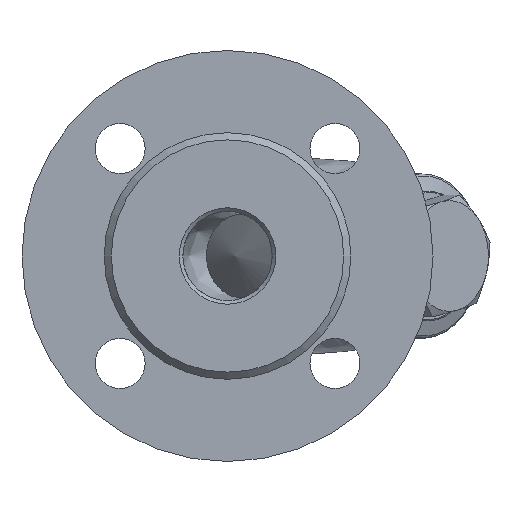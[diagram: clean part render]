
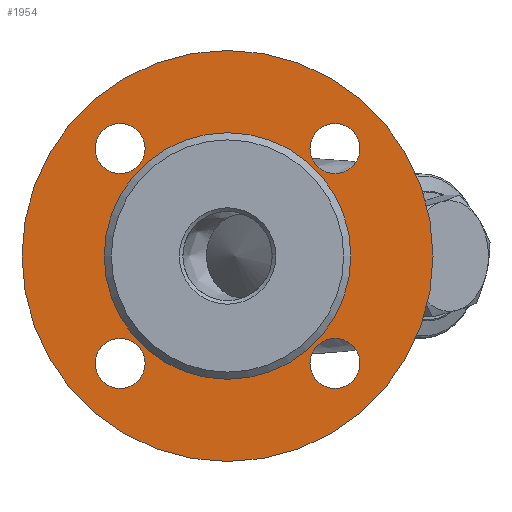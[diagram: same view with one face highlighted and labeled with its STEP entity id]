
A CAD part, left-side view. The second image highlights one B-rep face of the part: STEP entity #1954.
In plain terms, the highlighted planar face has unit normal (-1, 0, 0).
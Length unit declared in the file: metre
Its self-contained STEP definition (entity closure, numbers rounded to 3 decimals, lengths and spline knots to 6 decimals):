
#49=FACE_BOUND('',#495,.T.);
#50=FACE_BOUND('',#496,.T.);
#51=FACE_BOUND('',#497,.T.);
#52=FACE_BOUND('',#498,.T.);
#53=FACE_BOUND('',#499,.T.);
#74=PLANE('',#2229);
#361=FACE_OUTER_BOUND('',#494,.T.);
#494=EDGE_LOOP('',(#1567));
#495=EDGE_LOOP('',(#1568));
#496=EDGE_LOOP('',(#1569));
#497=EDGE_LOOP('',(#1570));
#498=EDGE_LOOP('',(#1571));
#499=EDGE_LOOP('',(#1572));
#603=CIRCLE('',#2111,0.007);
#605=CIRCLE('',#2114,0.007);
#607=CIRCLE('',#2117,0.007);
#609=CIRCLE('',#2120,0.007);
#660=CIRCLE('',#2196,0.0345);
#662=CIRCLE('',#2199,0.0575);
#837=VERTEX_POINT('',#4281);
#839=VERTEX_POINT('',#4287);
#841=VERTEX_POINT('',#4293);
#843=VERTEX_POINT('',#4299);
#904=VERTEX_POINT('',#5011);
#906=VERTEX_POINT('',#5017);
#1026=EDGE_CURVE('',#837,#837,#603,.T.);
#1029=EDGE_CURVE('',#839,#839,#605,.T.);
#1032=EDGE_CURVE('',#841,#841,#607,.T.);
#1035=EDGE_CURVE('',#843,#843,#609,.T.);
#1121=EDGE_CURVE('',#904,#904,#660,.T.);
#1124=EDGE_CURVE('',#906,#906,#662,.T.);
#1567=ORIENTED_EDGE('',*,*,#1124,.T.);
#1568=ORIENTED_EDGE('',*,*,#1026,.T.);
#1569=ORIENTED_EDGE('',*,*,#1029,.T.);
#1570=ORIENTED_EDGE('',*,*,#1032,.T.);
#1571=ORIENTED_EDGE('',*,*,#1035,.T.);
#1572=ORIENTED_EDGE('',*,*,#1121,.F.);
#1954=ADVANCED_FACE('',(#361,#49,#50,#51,#52,#53),#74,.F.);
#2111=AXIS2_PLACEMENT_3D('',#4283,#2390,#2391);
#2114=AXIS2_PLACEMENT_3D('',#4289,#2397,#2398);
#2117=AXIS2_PLACEMENT_3D('',#4295,#2404,#2405);
#2120=AXIS2_PLACEMENT_3D('',#4301,#2411,#2412);
#2196=AXIS2_PLACEMENT_3D('',#5012,#2578,#2579);
#2199=AXIS2_PLACEMENT_3D('',#5018,#2585,#2586);
#2229=AXIS2_PLACEMENT_3D('',#6051,#2652,#2653);
#2390=DIRECTION('center_axis',(1.,0.,0.));
#2391=DIRECTION('ref_axis',(0.,0.,-1.));
#2397=DIRECTION('center_axis',(1.,0.,0.));
#2398=DIRECTION('ref_axis',(0.,0.,-1.));
#2404=DIRECTION('center_axis',(1.,0.,0.));
#2405=DIRECTION('ref_axis',(0.,0.,-1.));
#2411=DIRECTION('center_axis',(1.,0.,0.));
#2412=DIRECTION('ref_axis',(0.,0.,-1.));
#2578=DIRECTION('center_axis',(-1.,0.,0.));
#2579=DIRECTION('ref_axis',(0.,0.,1.));
#2585=DIRECTION('center_axis',(-1.,0.,0.));
#2586=DIRECTION('ref_axis',(0.,0.,1.));
#2652=DIRECTION('center_axis',(1.,0.,0.));
#2653=DIRECTION('ref_axis',(0.,1.,0.));
#4281=CARTESIAN_POINT('',(-0.078,0.030052,0.023052));
#4283=CARTESIAN_POINT('Origin',(-0.078,0.030052,0.030052));
#4287=CARTESIAN_POINT('',(-0.078,-0.030052,0.023052));
#4289=CARTESIAN_POINT('Origin',(-0.078,-0.030052,0.030052));
#4293=CARTESIAN_POINT('',(-0.078,-0.030052,-0.037052));
#4295=CARTESIAN_POINT('Origin',(-0.078,-0.030052,-0.030052));
#4299=CARTESIAN_POINT('',(-0.078,0.030052,-0.037052));
#4301=CARTESIAN_POINT('Origin',(-0.078,0.030052,-0.030052));
#5011=CARTESIAN_POINT('',(-0.078,0.,0.0345));
#5012=CARTESIAN_POINT('Origin',(-0.078,0.,0.));
#5017=CARTESIAN_POINT('',(-0.078,0.,-0.0575));
#5018=CARTESIAN_POINT('Origin',(-0.078,0.,0.));
#6051=CARTESIAN_POINT('Origin',(-0.078,0.,0.));
